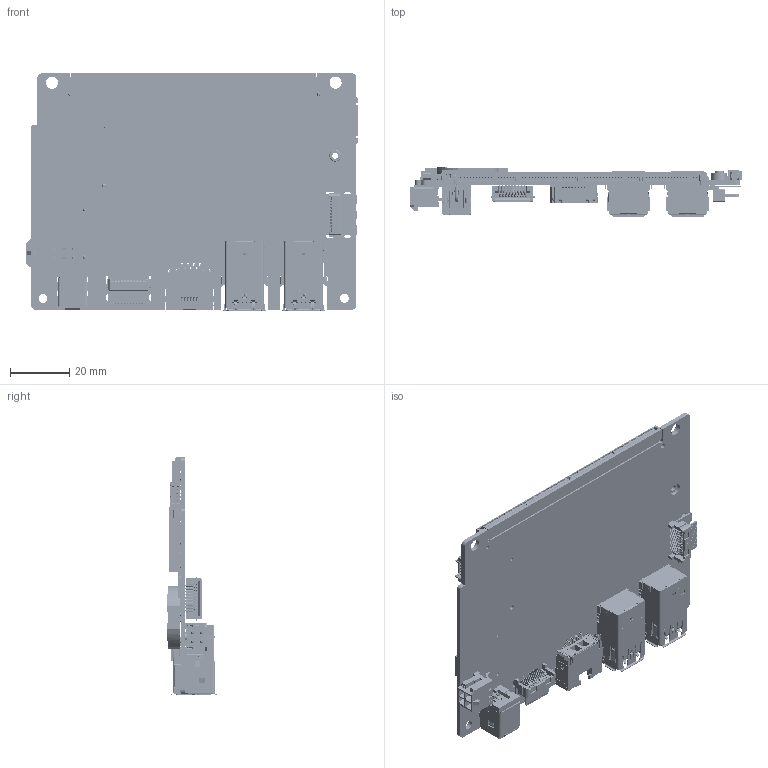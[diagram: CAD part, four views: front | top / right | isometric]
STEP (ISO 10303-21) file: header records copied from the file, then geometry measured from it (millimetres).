
FILE_DESCRIPTION((''),'2;1');
FILE_NAME('ASM_PCBA_BUTLER_BEACH_HDI_INTEL_ASM','2019-10-17T',('jkwu'),(''),'PRO/ENGINEER BY PARAMETRIC TECHNOLOGY CORPORATION, 2015030','PRO/ENGINEER BY PARAMETRIC TECHNOLOGY CORPORATION, 2015030','');
FILE_SCHEMA(('AUTOMOTIVE_DESIGN { 1 0 10303 214 1 1 1 1 }'));
Products named in the file (20): PCB_BUTLER_BEACH_HDI_INTEL; 10-456-300062_LOTES; 11-371-002575_MOSTWELL; 10-083-019864_MOSTWELL; 11-367-012200_SINGATRON; 10-084-018053_LOTES; NGFF_4H_M_10-456-067073_LOTES; 10-078-040393_ACES; 11-100-002133_LOTES; NUT_M2_BUTLER_BEACH; S-50271-004XX-XXX; CON_WB-11H125_S-50271-011_ACES; 10-331-010391_ACES; SWITCH_SLIDE_MSS3-Q_DIPTRONICS; WAFER_2WFLHM-H01602_MOSTWELL; 10-038-004865_MOSTWELL; DXF_PCBA_BUTLER_0716_USB-R_TOP; DXF_PCBA_BUTLER_0716_USB-R_BOT; CON_WB-11H125_10-W11-5002_YUNT; ASM_PCBA_BUTLER_BEACH_HDI_INTEL_ASM
Assembly tree (25 placements, depth 2):
  ASM_PCBA_BUTLER_BEACH_HDI_INTEL_ASM
    PCB_BUTLER_BEACH_HDI_INTEL
    10-456-300062_LOTES
    11-371-002575_MOSTWELL
    10-083-019864_MOSTWELL  x2
    11-367-012200_SINGATRON
    10-084-018053_LOTES  x2
    NGFF_4H_M_10-456-067073_LOTES
    10-078-040393_ACES
    11-100-002133_LOTES
    NUT_M2_BUTLER_BEACH
    S-50271-004XX-XXX  x4
    CON_WB-11H125_S-50271-011_ACES
    10-331-010391_ACES
    SWITCH_SLIDE_MSS3-Q_DIPTRONICS  x2
    WAFER_2WFLHM-H01602_MOSTWELL
    10-038-004865_MOSTWELL
    DXF_PCBA_BUTLER_0716_USB-R_TOP
    DXF_PCBA_BUTLER_0716_USB-R_BOT
    CON_WB-11H125_10-W11-5002_YUNT
Bounding box: 112.37 x 16.7 x 80.28 mm (x, y, z)
Volume: 23336.7 mm3; surface area: 46316.7 mm2
Topology: 24 solids, 77 shells, 25999 faces, 76789 edges, 49986 vertices
Faces by surface type: plane 17905, cylinder 7046, bspline 643, sphere 160, torus 124, cone 113, extrusion 8
Entity records: 790612 total; most frequent: CARTESIAN_POINT 136478, ORIENTED_EDGE 116256, DIRECTION 107089, EDGE_CURVE 58128, VECTOR 44551, LINE 44543, VERTEX_POINT 37996, AXIS2_PLACEMENT_3D 31269
